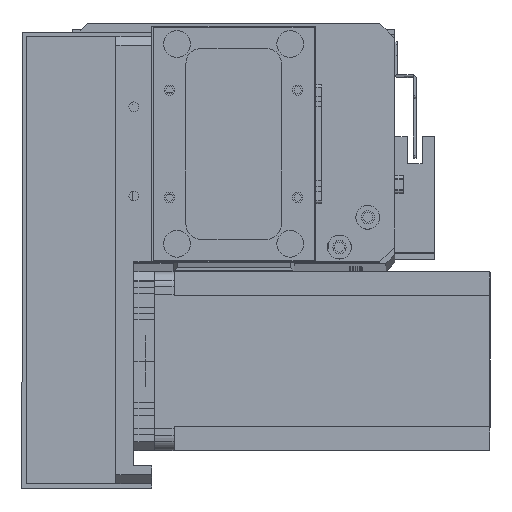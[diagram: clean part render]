
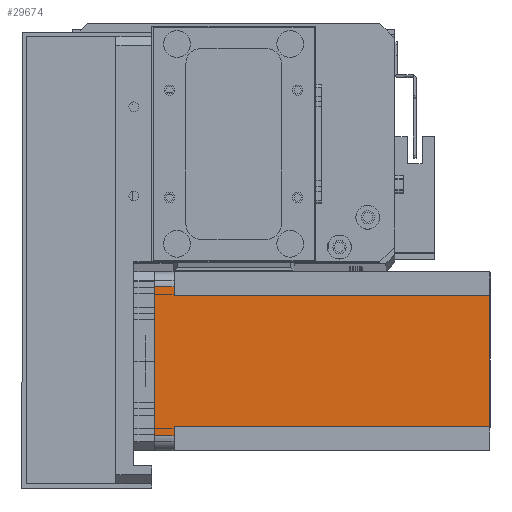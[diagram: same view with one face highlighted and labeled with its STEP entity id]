
A CAD part, top view. The second image highlights one B-rep face of the part: STEP entity #29674.
In plain terms, the highlighted planar face has unit normal (0, 0, 1) as drawn and (0, 1, 0) by its records, which use the part's own axes.
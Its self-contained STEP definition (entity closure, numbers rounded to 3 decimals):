
#56 = CARTESIAN_POINT ( 'NONE',  ( 52., 60., -112.5 ) ) ;
#810 = CARTESIAN_POINT ( 'NONE',  ( 5., 60., 0. ) ) ;
#906 = LINE ( 'NONE', #17458, #14345 ) ;
#1302 = VECTOR ( 'NONE', #19885, 1000. ) ;
#1678 = CARTESIAN_POINT ( 'NONE',  ( 0., 60., -112.5 ) ) ;
#2548 = DIRECTION ( 'NONE',  ( -1., 0., 0. ) ) ;
#3925 = VECTOR ( 'NONE', #21934, 1000. ) ;
#4305 = VERTEX_POINT ( 'NONE', #27411 ) ;
#4365 = CARTESIAN_POINT ( 'NONE',  ( 5., 60., -112.5 ) ) ;
#5470 = EDGE_CURVE ( 'NONE', #30606, #16945, #27161, .T. ) ;
#6849 = VERTEX_POINT ( 'NONE', #17381 ) ;
#7191 = EDGE_CURVE ( 'NONE', #30606, #7931, #14256, .T. ) ;
#7645 = VECTOR ( 'NONE', #26329, 1000. ) ;
#7931 = VERTEX_POINT ( 'NONE', #9291 ) ;
#8138 = LINE ( 'NONE', #4365, #14731 ) ;
#8810 = ORIENTED_EDGE ( 'NONE', *, *, #18024, .T. ) ;
#9291 = CARTESIAN_POINT ( 'NONE',  ( 8., 60., -112.5 ) ) ;
#9366 = ORIENTED_EDGE ( 'NONE', *, *, #15466, .T. ) ;
#9478 = DIRECTION ( 'NONE',  ( 0., 0., 1. ) ) ;
#9619 = EDGE_LOOP ( 'NONE', ( #23084, #8810, #30808, #16299, #9366, #14630, #25050, #22125 ) ) ;
#9928 = EDGE_CURVE ( 'NONE', #12881, #24459, #31021, .T. ) ;
#9954 = VECTOR ( 'NONE', #29307, 1000. ) ;
#11234 = VECTOR ( 'NONE', #22733, 1000. ) ;
#12881 = VERTEX_POINT ( 'NONE', #30854 ) ;
#12940 = VECTOR ( 'NONE', #28267, 1000. ) ;
#14256 = LINE ( 'NONE', #26868, #7645 ) ;
#14345 = VECTOR ( 'NONE', #2548, 1000. ) ;
#14386 = DIRECTION ( 'NONE',  ( 0., 0., 1. ) ) ;
#14630 = ORIENTED_EDGE ( 'NONE', *, *, #7191, .F. ) ;
#14731 = VECTOR ( 'NONE', #9478, 1000. ) ;
#15466 = EDGE_CURVE ( 'NONE', #4305, #7931, #16196, .T. ) ;
#16196 = LINE ( 'NONE', #29719, #11234 ) ;
#16299 = ORIENTED_EDGE ( 'NONE', *, *, #17048, .F. ) ;
#16945 = VERTEX_POINT ( 'NONE', #28792 ) ;
#17048 = EDGE_CURVE ( 'NONE', #4305, #12881, #29651, .T. ) ;
#17239 = CARTESIAN_POINT ( 'NONE',  ( 55., 60., -112.5 ) ) ;
#17381 = CARTESIAN_POINT ( 'NONE',  ( 55., 60., 0. ) ) ;
#17458 = CARTESIAN_POINT ( 'NONE',  ( 0., 60., 0. ) ) ;
#17501 = AXIS2_PLACEMENT_3D ( 'NONE', #1678, #28419, #14386 ) ;
#17520 = CARTESIAN_POINT ( 'NONE',  ( 55., 60., -6.5 ) ) ;
#18022 = CARTESIAN_POINT ( 'NONE',  ( 8., 60., -6.5 ) ) ;
#18024 = EDGE_CURVE ( 'NONE', #6849, #24459, #28831, .T. ) ;
#18439 = FACE_OUTER_BOUND ( 'NONE', #9619, .T. ) ;
#19885 = DIRECTION ( 'NONE',  ( -1., 0., 0. ) ) ;
#20021 = CARTESIAN_POINT ( 'NONE',  ( 8., 60., -6.5 ) ) ;
#20805 = EDGE_CURVE ( 'NONE', #6849, #28163, #906, .T. ) ;
#21934 = DIRECTION ( 'NONE',  ( 0., 0., -1. ) ) ;
#22125 = ORIENTED_EDGE ( 'NONE', *, *, #30256, .T. ) ;
#22733 = DIRECTION ( 'NONE',  ( -1., 0., 0. ) ) ;
#23084 = ORIENTED_EDGE ( 'NONE', *, *, #20805, .F. ) ;
#24459 = VERTEX_POINT ( 'NONE', #17520 ) ;
#25050 = ORIENTED_EDGE ( 'NONE', *, *, #5470, .T. ) ;
#26057 = PLANE ( 'NONE',  #17501 ) ;
#26329 = DIRECTION ( 'NONE',  ( 0., 0., -1. ) ) ;
#26868 = CARTESIAN_POINT ( 'NONE',  ( 8., 60., -112.5 ) ) ;
#27161 = LINE ( 'NONE', #20021, #1302 ) ;
#27411 = CARTESIAN_POINT ( 'NONE',  ( 52., 60., -112.5 ) ) ;
#28163 = VERTEX_POINT ( 'NONE', #810 ) ;
#28200 = CARTESIAN_POINT ( 'NONE',  ( 52., 60., -6.5 ) ) ;
#28267 = DIRECTION ( 'NONE',  ( 1., 0., 0. ) ) ;
#28419 = DIRECTION ( 'NONE',  ( 0., 1., 0. ) ) ;
#28792 = CARTESIAN_POINT ( 'NONE',  ( 5., 60., -6.5 ) ) ;
#28831 = LINE ( 'NONE', #17239, #3925 ) ;
#29307 = DIRECTION ( 'NONE',  ( 0., 0., 1. ) ) ;
#29651 = LINE ( 'NONE', #56, #9954 ) ;
#29674 = ADVANCED_FACE ( 'NONE', ( #18439 ), #26057, .T. ) ;
#29719 = CARTESIAN_POINT ( 'NONE',  ( 0., 60., -112.5 ) ) ;
#30256 = EDGE_CURVE ( 'NONE', #16945, #28163, #8138, .T. ) ;
#30606 = VERTEX_POINT ( 'NONE', #18022 ) ;
#30808 = ORIENTED_EDGE ( 'NONE', *, *, #9928, .F. ) ;
#30854 = CARTESIAN_POINT ( 'NONE',  ( 52., 60., -6.5 ) ) ;
#31021 = LINE ( 'NONE', #28200, #12940 ) ;
